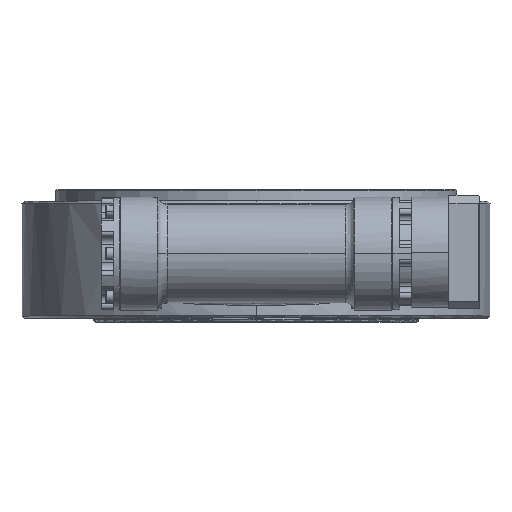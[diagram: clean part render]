
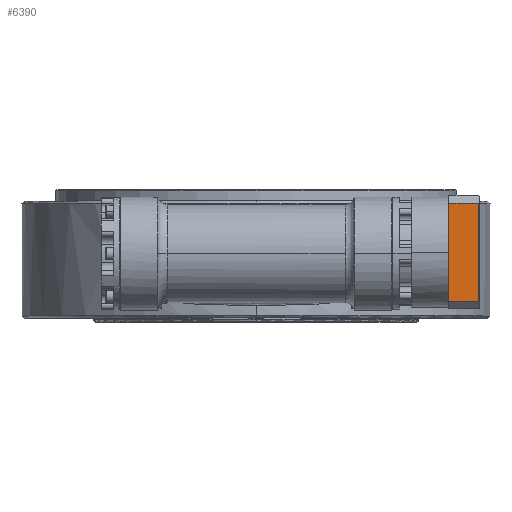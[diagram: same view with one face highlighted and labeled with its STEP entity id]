
A CAD part, top view. The second image highlights one B-rep face of the part: STEP entity #6390.
In plain terms, the highlighted planar face has unit normal (0, 0, 1).
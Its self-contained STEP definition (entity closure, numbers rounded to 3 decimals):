
#1332 = CARTESIAN_POINT ( 'NONE',  ( 167.398, 62.031, 1050. ) ) ;
#3183 = EDGE_CURVE ( 'NONE', #16823, #43693, #45294, .T. ) ;
#4606 = EDGE_CURVE ( 'NONE', #39009, #10161, #17233, .T. ) ;
#5373 = CARTESIAN_POINT ( 'NONE',  ( 167.398, -24.636, 1050. ) ) ;
#6390 = ADVANCED_FACE ( 'NONE', ( #11066 ), #26204, .F. ) ;
#8165 = CARTESIAN_POINT ( 'NONE',  ( 206.398, 62.031, 1050. ) ) ;
#8801 = CARTESIAN_POINT ( 'NONE',  ( 206.398, -67.969, 1050. ) ) ;
#9766 = CARTESIAN_POINT ( 'NONE',  ( 167.398, -67.969, 1050. ) ) ;
#10161 = VERTEX_POINT ( 'NONE', #15056 ) ;
#10589 = CARTESIAN_POINT ( 'NONE',  ( 206.398, -24.636, 1050. ) ) ;
#10749 = CARTESIAN_POINT ( 'NONE',  ( 206.398, 62.031, 1050. ) ) ;
#11066 = FACE_OUTER_BOUND ( 'NONE', #46196, .T. ) ;
#12229 = CARTESIAN_POINT ( 'NONE',  ( 180.398, 62.031, 1050. ) ) ;
#12694 = CARTESIAN_POINT ( 'NONE',  ( 167.398, 62.031, 1050. ) ) ;
#14823 = ORIENTED_EDGE ( 'NONE', *, *, #24552, .F. ) ;
#15056 = CARTESIAN_POINT ( 'NONE',  ( 167.398, -67.969, 1050. ) ) ;
#15364 = CARTESIAN_POINT ( 'NONE',  ( 193.398, 62.031, 1050. ) ) ;
#16823 = VERTEX_POINT ( 'NONE', #18279 ) ;
#17233 = B_SPLINE_CURVE_WITH_KNOTS ( 'NONE', 3,
 ( #20703, #35046, #45653, #9766 ),
 .UNSPECIFIED., .F., .F.,
 ( 4, 4 ),
 ( 0., 1. ),
 .UNSPECIFIED. ) ;
#18279 = CARTESIAN_POINT ( 'NONE',  ( 206.398, 62.031, 1050. ) ) ;
#18425 = EDGE_CURVE ( 'NONE', #16823, #39009, #30454, .T. ) ;
#18919 = ORIENTED_EDGE ( 'NONE', *, *, #3183, .T. ) ;
#19705 = CARTESIAN_POINT ( 'NONE',  ( 167.398, -67.969, 1050. ) ) ;
#19929 = DIRECTION ( 'NONE',  ( 0., 0., -1. ) ) ;
#20703 = CARTESIAN_POINT ( 'NONE',  ( 206.398, -67.969, 1050. ) ) ;
#22263 = B_SPLINE_CURVE_WITH_KNOTS ( 'NONE', 3,
 ( #19705, #5373, #44661, #12694 ),
 .UNSPECIFIED., .F., .F.,
 ( 4, 4 ),
 ( 0., 1. ),
 .UNSPECIFIED. ) ;
#22290 = ORIENTED_EDGE ( 'NONE', *, *, #4606, .F. ) ;
#24552 = EDGE_CURVE ( 'NONE', #10161, #43693, #22263, .T. ) ;
#26204 = PLANE ( 'NONE',  #34234 ) ;
#28401 = CARTESIAN_POINT ( 'NONE',  ( 206.398, 18.698, 1050. ) ) ;
#29802 = CARTESIAN_POINT ( 'NONE',  ( 167.398, 72.031, 1050. ) ) ;
#29901 = CARTESIAN_POINT ( 'NONE',  ( 167.398, 62.031, 1050. ) ) ;
#30454 = B_SPLINE_CURVE_WITH_KNOTS ( 'NONE', 3,
 ( #10749, #28401, #10589, #43197 ),
 .UNSPECIFIED., .F., .F.,
 ( 4, 4 ),
 ( 0., 1. ),
 .UNSPECIFIED. ) ;
#33970 = ORIENTED_EDGE ( 'NONE', *, *, #18425, .F. ) ;
#34234 = AXIS2_PLACEMENT_3D ( 'NONE', #29802, #19929, #38024 ) ;
#35046 = CARTESIAN_POINT ( 'NONE',  ( 193.398, -67.969, 1050. ) ) ;
#38024 = DIRECTION ( 'NONE',  ( 0., -1., 0. ) ) ;
#39009 = VERTEX_POINT ( 'NONE', #8801 ) ;
#43197 = CARTESIAN_POINT ( 'NONE',  ( 206.398, -67.969, 1050. ) ) ;
#43693 = VERTEX_POINT ( 'NONE', #29901 ) ;
#44661 = CARTESIAN_POINT ( 'NONE',  ( 167.398, 18.698, 1050. ) ) ;
#45294 = B_SPLINE_CURVE_WITH_KNOTS ( 'NONE', 3,
 ( #8165, #15364, #12229, #1332 ),
 .UNSPECIFIED., .F., .F.,
 ( 4, 4 ),
 ( 0., 1. ),
 .UNSPECIFIED. ) ;
#45653 = CARTESIAN_POINT ( 'NONE',  ( 180.398, -67.969, 1050. ) ) ;
#46196 = EDGE_LOOP ( 'NONE', ( #33970, #18919, #14823, #22290 ) ) ;
